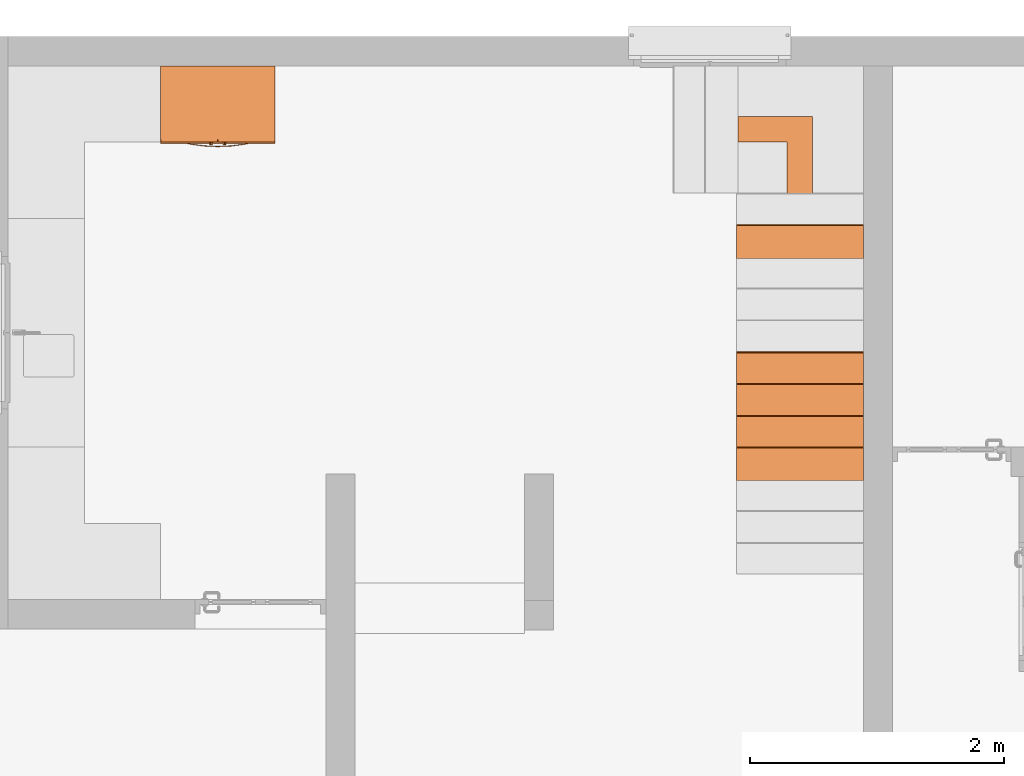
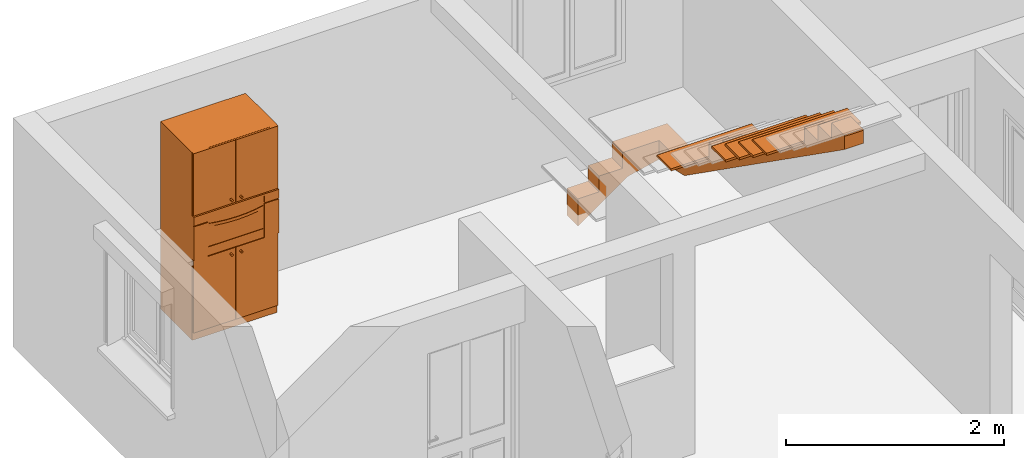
# One storey, part 16 of 17: 7 proxies, 1 element without a shape of its own.
"""IFC2X3 building model written with IfcOpenShell, lengths in metres."""

from ifc_helpers import new_model, entity, si_unit, converted_unit, derived_unit, money_unit, direction, frame, origin_with_axes, place, context, subcontext, project, spatial, faceted_brep, material, type_object, element, aggregate, save


model = new_model("IFC2X3")

# Units and contexts
model_context = context("Model", 3, precision=1e-05, world=origin_with_axes(), true_north=direction((0.0, 1.0)))
body_context = subcontext(model_context, "Body", "Model", "MODEL_VIEW")
ifc_project = project(units=[si_unit("LENGTHUNIT", "METRE"), si_unit("AREAUNIT", "SQUARE_METRE"), si_unit("VOLUMEUNIT", "CUBIC_METRE"), converted_unit("PLANEANGLEUNIT", "DEGREE", entity("IfcPlaneAngleMeasure", 0.0174532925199), si_unit("PLANEANGLEUNIT", "RADIAN"), dimensions=[0, 0, 0, 0, 0, 0, 0]), si_unit("SOLIDANGLEUNIT", "STERADIAN"), money_unit("CHF"), converted_unit("TIMEUNIT", "Year", entity("IfcTimeMeasure", 31556926.0), si_unit("TIMEUNIT", "SECOND"), dimensions=[0, 0, 1, 0, 0, 0, 0]), si_unit("MASSUNIT", "GRAM", prefix="KILO"), si_unit("THERMODYNAMICTEMPERATUREUNIT", "DEGREE_CELSIUS"), si_unit("LUMINOUSINTENSITYUNIT", "LUMEN"), si_unit("ENERGYUNIT", "JOULE", prefix="MEGA"), derived_unit("THERMALCONDUCTANCEUNIT", [(si_unit("POWERUNIT", "WATT"), 1), (si_unit("LENGTHUNIT", "METRE"), -1), (si_unit("THERMODYNAMICTEMPERATUREUNIT", "KELVIN"), -1)]), derived_unit("SPECIFICHEATCAPACITYUNIT", [(si_unit("ENERGYUNIT", "JOULE"), 1), (si_unit("MASSUNIT", "GRAM", prefix="KILO"), -1), (si_unit("THERMODYNAMICTEMPERATUREUNIT", "KELVIN"), -1)]), derived_unit("MASSDENSITYUNIT", [(si_unit("MASSUNIT", "GRAM", prefix="KILO"), 1), (si_unit("VOLUMEUNIT", "CUBIC_METRE"), -1)])], contexts=[model_context])

# Site, building, storey
site_placement = place(None, origin_with_axes())
site = spatial("IfcSite", under=ifc_project, at=site_placement, Name="Site", CompositionType="ELEMENT")
building_placement = place(site_placement, origin_with_axes())
building = spatial("IfcBuilding", under=site, at=building_placement, Name="Bâtiment", CompositionType="ELEMENT")
storey_placement = place(building_placement, frame((0.0, 0.0, 3.0), z_axis=(0.0, 0.0, 1.0), x_axis=(1.0, 0.0, 0.0)))
storey = spatial("IfcBuildingStorey", under=building, at=storey_placement, Name="RDJ", CompositionType="ELEMENT", Elevation=3.0)

# Discrete accessory, proxies
discrete_accessory_type = type_object("IfcDiscreteAccessoryType", Name="Type d'escalier")
discrete_accessory_placement = place(storey_placement, frame((90.2435190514, 18.0803410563, -2.79432731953), z_axis=(0.0, 0.0, 1.0), x_axis=(1.0, 0.0, 0.0)))
discrete_accessory = element("IfcDiscreteAccessory", 1, at=discrete_accessory_placement, inside=storey, type_object=discrete_accessory_type, Name="ESCALIER-001")
ifc_material_1 = material(Name="Bois - Massif 01")
building_element_proxy_type_1 = type_object("IfcBuildingElementProxyType", Name="IfcBuildingElementProxy", PredefinedType="NOTDEFINED")
proxy_1_placement = place(discrete_accessory_placement, origin_with_axes())
proxy_1 = element("IfcBuildingElementProxy", 2, at=proxy_1_placement, type_object=building_element_proxy_type_1, material=ifc_material_1, Name="VOLEE-001", context=body_context, shape_type="Brep", body=[
    faceted_brep([(1.1, -3.265, 2.26857142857), (1.1, -3.265, 2.445), (1.1, -3.4925295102, 2.445), (1.1, -3.5, 2.43441428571), (1.1, -3.5, 2.28754131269), (1.1, -0.564672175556, 0.216038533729), (1.1, -0.12491681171, 0.116996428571), (1.1, 0.1, 0.116996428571), (1.1, 0.1, 0.327857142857), (1.1, -0.515, 0.327857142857), (1.1, -0.515, 0.504285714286), (1.1, -0.765, 0.504285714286), (1.1, -0.765, 0.680714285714), (1.1, -1.015, 0.680714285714), (1.1, -1.015, 0.857142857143), (1.1, -1.265, 0.857142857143), (1.1, -1.265, 1.03357142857), (1.1, -1.515, 1.03357142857), (1.1, -1.515, 1.21), (1.1, -1.765, 1.21), (1.1, -1.765, 1.38642857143), (1.1, -2.015, 1.38642857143), (1.1, -2.015, 1.56285714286), (1.1, -2.265, 1.56285714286), (1.1, -2.265, 1.73928571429), (1.1, -2.515, 1.73928571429), (1.1, -2.515, 1.91571428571), (1.1, -2.765, 1.91571428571), (1.1, -2.765, 2.09214285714), (1.1, -3.015, 2.09214285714), (1.1, -3.015, 2.26857142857), (0.9, -3.265, 2.26857142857), (0.9, -3.265, 2.445), (0.9, -3.4925295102, 2.445), (0.9, -3.5, 2.43441428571), (0.9, -3.5, 2.28754131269), (0.9, -0.564672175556, 0.216038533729), (0.9, -0.12491681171, 0.116996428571), (0.9, -0.1, 0.116996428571), (0.902001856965, -0.1, 0.116996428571), (0.902001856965, 0.1, 0.116996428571), (0.564862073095, 0.1, 0.0397439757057), (0.04, 0.1, -0.330658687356), (0.04, 0.1, -0.025), (0.265, 0.1, -0.025), (0.265, 0.1, 0.151428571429), (0.515, 0.1, 0.151428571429), (0.515, 0.1, 0.327857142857), (0.9, -0.515, 0.327857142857), (0.515, -0.1, 0.327857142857), (0.9, -0.1, 0.327857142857), (0.9, -0.515, 0.504285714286), (0.9, -0.765, 0.504285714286), (0.9, -0.765, 0.680714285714), (0.9, -1.015, 0.680714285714), (0.9, -1.015, 0.857142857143), (0.9, -1.265, 0.857142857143), (0.9, -1.265, 1.03357142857), (0.9, -1.515, 1.03357142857), (0.9, -1.515, 1.21), (0.9, -1.765, 1.21), (0.9, -1.765, 1.38642857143), (0.9, -2.015, 1.38642857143), (0.9, -2.015, 1.56285714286), (0.9, -2.265, 1.56285714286), (0.9, -2.265, 1.73928571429), (0.9, -2.515, 1.73928571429), (0.9, -2.515, 1.91571428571), (0.9, -2.765, 1.91571428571), (0.9, -2.765, 2.09214285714), (0.9, -3.015, 2.09214285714), (0.9, -3.015, 2.26857142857), (0.265, -0.1, 0.151428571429), (0.265, -0.1, -0.025), (0.04, -0.1, -0.025), (0.04, -0.1, -0.330658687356), (0.564862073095, -0.1, 0.0397439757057), (0.515, -0.1, 0.151428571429)], [[[0, 1, 2, 3, 4, 5, 6, 7, 8, 9, 10, 11, 12, 13, 14, 15, 16, 17, 18, 19, 20, 21, 22, 23, 24, 25, 26, 27, 28, 29, 30]], [[31, 32, 1, 0]], [[32, 33, 2, 1]], [[3, 2, 33, 34]], [[34, 35, 4, 3]], [[36, 5, 4, 35]], [[37, 6, 5, 36]], [[7, 6, 37, 38, 39, 40]], [[40, 41, 42, 43, 44, 45, 46, 47, 8, 7]], [[48, 9, 8, 47, 49, 50]], [[9, 48, 51, 10]], [[51, 52, 11, 10]], [[12, 11, 52, 53]], [[12, 53, 54, 13]], [[55, 14, 13, 54]], [[15, 14, 55, 56]], [[56, 57, 16, 15]], [[58, 17, 16, 57]], [[17, 58, 59, 18]], [[59, 60, 19, 18]], [[20, 19, 60, 61]], [[20, 61, 62, 21]], [[63, 22, 21, 62]], [[23, 22, 63, 64]], [[64, 65, 24, 23]], [[66, 25, 24, 65]], [[25, 66, 67, 26]], [[67, 68, 27, 26]], [[28, 27, 68, 69]], [[28, 69, 70, 29]], [[71, 30, 29, 70]], [[0, 30, 71, 31]], [[34, 33, 32, 31, 71, 70, 69, 68, 67, 66, 65, 64, 63, 62, 61, 60, 59, 58, 57, 56, 55, 54, 53, 52, 51, 48, 50, 38, 37, 36, 35]], [[72, 73, 74, 75, 76, 39, 38, 50, 49, 77]], [[76, 41, 40, 39]], [[76, 75, 42, 41]], [[43, 42, 75, 74]], [[73, 44, 43, 74]], [[72, 45, 44, 73]], [[72, 77, 46, 45]], [[77, 49, 47, 46]]]),
])
ifc_material_2 = material(Name="Finition sol - Parquet")
proxy_2_placement = place(discrete_accessory_placement, frame((1.0, -0.75, 0.705714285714), z_axis=(0.0, 0.0, 1.0), x_axis=(-1.0, 0.0, 0.0)))
proxy_2 = element("IfcBuildingElementProxy", 3, at=proxy_2_placement, type_object=building_element_proxy_type_1, material=ifc_material_2, Name="MARCHE-005", context=body_context, shape_type="Brep", body=[
    faceted_brep([(-0.5, 0.265, 0.0), (0.5, 0.265, 0.0), (0.5, 0.265, -0.025), (-0.5, 0.265, -0.025), (-0.5, 0.0125, 0.0), (0.5, 0.0125, 0.0), (0.5, 0.000189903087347, -0.0103293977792), (0.5, 0.0, -0.0125), (0.5, 0.0, -0.025), (0.5, 0.0103293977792, -0.000189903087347), (0.5, 0.00822474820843, -0.000753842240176), (0.5, 0.00625, -0.00167468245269), (0.5, 0.00446515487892, -0.00292444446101), (0.5, 0.00292444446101, -0.00446515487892), (0.5, 0.00167468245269, -0.00625), (0.5, 0.000753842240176, -0.00822474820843), (-0.5, 0.0, -0.025), (-0.5, 0.0, -0.0125), (-0.5, 0.000189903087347, -0.0103293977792), (-0.5, 0.000753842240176, -0.00822474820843), (-0.5, 0.00167468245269, -0.00625), (-0.5, 0.00292444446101, -0.00446515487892), (-0.5, 0.00446515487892, -0.00292444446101), (-0.5, 0.00625, -0.00167468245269), (-0.5, 0.00822474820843, -0.000753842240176), (-0.5, 0.0103293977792, -0.000189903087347)], [[[0, 1, 2, 3]], [[1, 0, 4, 5]], [[6, 7, 8, 2, 1, 5, 9, 10, 11, 12, 13, 14, 15]], [[8, 16, 3, 2]], [[4, 0, 3, 16, 17, 18, 19, 20, 21, 22, 23, 24, 25]], [[9, 5, 4, 25]], [[7, 6, 18, 17]], [[7, 17, 16, 8]], [[10, 9, 25, 24]], [[11, 10, 24, 23]], [[12, 11, 23, 22]], [[13, 12, 22, 21]], [[14, 13, 21, 20]], [[15, 14, 20, 19]], [[6, 15, 19, 18]]]),
])
proxy_3_placement = place(discrete_accessory_placement, frame((1.0, -1.75, 1.41142857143), z_axis=(0.0, 0.0, 1.0), x_axis=(-1.0, 0.0, 0.0)))
proxy_3 = element("IfcBuildingElementProxy", 4, at=proxy_3_placement, type_object=building_element_proxy_type_1, material=ifc_material_2, Name="MARCHE-009", context=body_context, shape_type="Brep", body=[
    faceted_brep([(-0.5, 0.265, 0.0), (0.5, 0.265, 0.0), (0.5, 0.265, -0.025), (-0.5, 0.265, -0.025), (-0.5, 0.0125, 0.0), (0.5, 0.0125, 0.0), (0.5, 0.000189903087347, -0.0103293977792), (0.5, 0.0, -0.0125), (0.5, 0.0, -0.025), (0.5, 0.0103293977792, -0.000189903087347), (0.5, 0.00822474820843, -0.000753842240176), (0.5, 0.00625, -0.00167468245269), (0.5, 0.00446515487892, -0.00292444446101), (0.5, 0.00292444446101, -0.00446515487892), (0.5, 0.00167468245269, -0.00625), (0.5, 0.000753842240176, -0.00822474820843), (-0.5, 0.0, -0.025), (-0.5, 0.0, -0.0125), (-0.5, 0.000189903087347, -0.0103293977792), (-0.5, 0.000753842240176, -0.00822474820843), (-0.5, 0.00167468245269, -0.00625), (-0.5, 0.00292444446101, -0.00446515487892), (-0.5, 0.00446515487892, -0.00292444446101), (-0.5, 0.00625, -0.00167468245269), (-0.5, 0.00822474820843, -0.000753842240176), (-0.5, 0.0103293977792, -0.000189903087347)], [[[0, 1, 2, 3]], [[1, 0, 4, 5]], [[6, 7, 8, 2, 1, 5, 9, 10, 11, 12, 13, 14, 15]], [[8, 16, 3, 2]], [[4, 0, 3, 16, 17, 18, 19, 20, 21, 22, 23, 24, 25]], [[9, 5, 4, 25]], [[7, 6, 18, 17]], [[7, 17, 16, 8]], [[10, 9, 25, 24]], [[11, 10, 24, 23]], [[12, 11, 23, 22]], [[13, 12, 22, 21]], [[14, 13, 21, 20]], [[15, 14, 20, 19]], [[6, 15, 19, 18]]]),
])
proxy_4_placement = place(discrete_accessory_placement, frame((1.0, -2.0, 1.58785714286), z_axis=(0.0, 0.0, 1.0), x_axis=(-1.0, 0.0, 0.0)))
proxy_4 = element("IfcBuildingElementProxy", 5, at=proxy_4_placement, type_object=building_element_proxy_type_1, material=ifc_material_2, Name="MARCHE-010", context=body_context, shape_type="Brep", body=[
    faceted_brep([(-0.5, 0.265, 0.0), (0.5, 0.265, 0.0), (0.5, 0.265, -0.025), (-0.5, 0.265, -0.025), (-0.5, 0.0125, 0.0), (0.5, 0.0125, 0.0), (0.5, 0.000189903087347, -0.0103293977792), (0.5, 0.0, -0.0125), (0.5, 0.0, -0.025), (0.5, 0.0103293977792, -0.000189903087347), (0.5, 0.00822474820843, -0.000753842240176), (0.5, 0.00625, -0.00167468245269), (0.5, 0.00446515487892, -0.00292444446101), (0.5, 0.00292444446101, -0.00446515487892), (0.5, 0.00167468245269, -0.00625), (0.5, 0.000753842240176, -0.00822474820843), (-0.5, 0.0, -0.025), (-0.5, 0.0, -0.0125), (-0.5, 0.000189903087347, -0.0103293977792), (-0.5, 0.000753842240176, -0.00822474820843), (-0.5, 0.00167468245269, -0.00625), (-0.5, 0.00292444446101, -0.00446515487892), (-0.5, 0.00446515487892, -0.00292444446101), (-0.5, 0.00625, -0.00167468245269), (-0.5, 0.00822474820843, -0.000753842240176), (-0.5, 0.0103293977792, -0.000189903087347)], [[[0, 1, 2, 3]], [[1, 0, 4, 5]], [[6, 7, 8, 2, 1, 5, 9, 10, 11, 12, 13, 14, 15]], [[8, 16, 3, 2]], [[4, 0, 3, 16, 17, 18, 19, 20, 21, 22, 23, 24, 25]], [[9, 5, 4, 25]], [[7, 6, 18, 17]], [[7, 17, 16, 8]], [[10, 9, 25, 24]], [[11, 10, 24, 23]], [[12, 11, 23, 22]], [[13, 12, 22, 21]], [[14, 13, 21, 20]], [[15, 14, 20, 19]], [[6, 15, 19, 18]]]),
])
proxy_5_placement = place(discrete_accessory_placement, frame((1.0, -2.25, 1.76428571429), z_axis=(0.0, 0.0, 1.0), x_axis=(-1.0, 0.0, 0.0)))
proxy_5 = element("IfcBuildingElementProxy", 6, at=proxy_5_placement, type_object=building_element_proxy_type_1, material=ifc_material_2, Name="MARCHE-011", context=body_context, shape_type="Brep", body=[
    faceted_brep([(-0.5, 0.265, 0.0), (0.5, 0.265, 0.0), (0.5, 0.265, -0.025), (-0.5, 0.265, -0.025), (-0.5, 0.0125, 0.0), (0.5, 0.0125, 0.0), (0.5, 0.000189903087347, -0.0103293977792), (0.5, 0.0, -0.0125), (0.5, 0.0, -0.025), (0.5, 0.0103293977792, -0.000189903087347), (0.5, 0.00822474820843, -0.000753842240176), (0.5, 0.00625, -0.00167468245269), (0.5, 0.00446515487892, -0.00292444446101), (0.5, 0.00292444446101, -0.00446515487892), (0.5, 0.00167468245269, -0.00625), (0.5, 0.000753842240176, -0.00822474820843), (-0.5, 0.0, -0.025), (-0.5, 0.0, -0.0125), (-0.5, 0.000189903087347, -0.0103293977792), (-0.5, 0.000753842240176, -0.00822474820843), (-0.5, 0.00167468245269, -0.00625), (-0.5, 0.00292444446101, -0.00446515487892), (-0.5, 0.00446515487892, -0.00292444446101), (-0.5, 0.00625, -0.00167468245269), (-0.5, 0.00822474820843, -0.000753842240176), (-0.5, 0.0103293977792, -0.000189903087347)], [[[0, 1, 2, 3]], [[1, 0, 4, 5]], [[6, 7, 8, 2, 1, 5, 9, 10, 11, 12, 13, 14, 15]], [[8, 16, 3, 2]], [[4, 0, 3, 16, 17, 18, 19, 20, 21, 22, 23, 24, 25]], [[9, 5, 4, 25]], [[7, 6, 18, 17]], [[7, 17, 16, 8]], [[10, 9, 25, 24]], [[11, 10, 24, 23]], [[12, 11, 23, 22]], [[13, 12, 22, 21]], [[14, 13, 21, 20]], [[15, 14, 20, 19]], [[6, 15, 19, 18]]]),
])
proxy_6_placement = place(discrete_accessory_placement, frame((1.0, -2.5, 1.94071428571), z_axis=(0.0, 0.0, 1.0), x_axis=(-1.0, 0.0, 0.0)))
proxy_6 = element("IfcBuildingElementProxy", 7, at=proxy_6_placement, type_object=building_element_proxy_type_1, material=ifc_material_2, Name="MARCHE-012", context=body_context, shape_type="Brep", body=[
    faceted_brep([(-0.5, 0.265, 0.0), (0.5, 0.265, 0.0), (0.5, 0.265, -0.025), (-0.5, 0.265, -0.025), (-0.5, 0.0125, 0.0), (0.5, 0.0125, 0.0), (0.5, 0.000189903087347, -0.0103293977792), (0.5, 0.0, -0.0125), (0.5, 0.0, -0.025), (0.5, 0.0103293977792, -0.000189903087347), (0.5, 0.00822474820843, -0.000753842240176), (0.5, 0.00625, -0.00167468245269), (0.5, 0.00446515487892, -0.00292444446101), (0.5, 0.00292444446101, -0.00446515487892), (0.5, 0.00167468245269, -0.00625), (0.5, 0.000753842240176, -0.00822474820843), (-0.5, 0.0, -0.025), (-0.5, 0.0, -0.0125), (-0.5, 0.000189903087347, -0.0103293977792), (-0.5, 0.000753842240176, -0.00822474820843), (-0.5, 0.00167468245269, -0.00625), (-0.5, 0.00292444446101, -0.00446515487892), (-0.5, 0.00446515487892, -0.00292444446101), (-0.5, 0.00625, -0.00167468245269), (-0.5, 0.00822474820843, -0.000753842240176), (-0.5, 0.0103293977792, -0.000189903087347)], [[[0, 1, 2, 3]], [[1, 0, 4, 5]], [[6, 7, 8, 2, 1, 5, 9, 10, 11, 12, 13, 14, 15]], [[8, 16, 3, 2]], [[4, 0, 3, 16, 17, 18, 19, 20, 21, 22, 23, 24, 25]], [[9, 5, 4, 25]], [[7, 6, 18, 17]], [[7, 17, 16, 8]], [[10, 9, 25, 24]], [[11, 10, 24, 23]], [[12, 11, 23, 22]], [[13, 12, 22, 21]], [[14, 13, 21, 20]], [[15, 14, 20, 19]], [[6, 15, 19, 18]]]),
])
aggregate(discrete_accessory, [proxy_1, proxy_2, proxy_3, proxy_4, proxy_5, proxy_6])

# Proxy
building_element_proxy_type_2 = type_object("IfcBuildingElementProxyType", Name="Elément haut double avec four 24", PredefinedType="NOTDEFINED")
proxy_7_placement = place(storey_placement, frame((86.2135190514, 17.9803410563, -2.99), z_axis=(0.0, 0.0, 1.0), x_axis=(1.0, 0.0, 0.0)))
element("IfcBuildingElementProxy", 8, at=proxy_7_placement, inside=storey, type_object=building_element_proxy_type_2, Name="MOB-1204", context=body_context, shape_type="Brep", body=[
    faceted_brep([(0.02, 0.02, 1.39), (0.88, 0.02, 1.39), (0.88, 0.02, 1.41), (0.02, 0.02, 1.41), (0.02, 0.58, 1.39), (0.88, 0.58, 1.39), (0.88, 0.58, 1.41), (0.02, 0.58, 1.41)], [[[0, 1, 2, 3]], [[0, 4, 5, 1]], [[1, 5, 6, 2]], [[3, 2, 6, 7]], [[4, 0, 3, 7]], [[5, 4, 7, 6]]]),
    faceted_brep([(0.02, 0.02, 0.89), (0.88, 0.02, 0.89), (0.88, 0.02, 0.91), (0.02, 0.02, 0.91), (0.02, 0.58, 0.89), (0.88, 0.58, 0.89), (0.88, 0.58, 0.91), (0.02, 0.58, 0.91)], [[[0, 1, 2, 3]], [[0, 4, 5, 1]], [[1, 5, 6, 2]], [[3, 2, 6, 7]], [[4, 0, 3, 7]], [[5, 4, 7, 6]]]),
    faceted_brep([(0.0, 0.02, 0.0), (0.9, 0.02, 0.0), (0.9, 0.02, 0.09), (0.0, 0.02, 0.09), (0.0, 0.6, 0.0), (0.9, 0.6, 0.0), (0.9, 0.6, 0.09), (0.0, 0.6, 0.09)], [[[0, 1, 2, 3]], [[0, 4, 5, 1]], [[1, 5, 6, 2]], [[3, 2, 6, 7]], [[4, 0, 3, 7]], [[5, 4, 7, 6]]]),
    faceted_brep([(0.0, 0.02, 2.08), (0.02, 0.02, 2.08), (0.02, 0.02, 2.1), (0.0, 0.02, 2.1), (0.0, 0.6, 2.08), (0.02, 0.6, 2.08), (0.88, 0.6, 2.08), (0.9, 0.6, 2.08), (0.9, 0.02, 2.08), (0.88, 0.02, 2.08), (0.88, 0.02, 2.1), (0.9, 0.02, 2.1), (0.9, 0.6, 2.1), (0.88, 0.6, 2.1), (0.02, 0.6, 2.1), (0.0, 0.6, 2.1)], [[[0, 1, 2, 3]], [[0, 4, 5, 6, 7, 8, 9, 1]], [[1, 9, 10, 2]], [[3, 2, 10, 11, 12, 13, 14, 15]], [[4, 0, 3, 15]], [[5, 4, 15, 14]], [[6, 5, 14, 13]], [[7, 6, 13, 12]], [[8, 7, 12, 11]], [[9, 8, 11, 10]]]),
    faceted_brep([(0.0, 0.02, 0.09), (0.02, 0.02, 0.09), (0.02, 0.02, 0.11), (0.0, 0.02, 0.11), (0.0, 0.6, 0.09), (0.02, 0.6, 0.09), (0.88, 0.6, 0.09), (0.9, 0.6, 0.09), (0.9, 0.02, 0.09), (0.88, 0.02, 0.09), (0.88, 0.02, 0.11), (0.9, 0.02, 0.11), (0.9, 0.6, 0.11), (0.88, 0.6, 0.11), (0.02, 0.6, 0.11), (0.0, 0.6, 0.11)], [[[0, 1, 2, 3]], [[0, 4, 5, 6, 7, 8, 9, 1]], [[1, 9, 10, 2]], [[3, 2, 10, 11, 12, 13, 14, 15]], [[4, 0, 3, 15]], [[5, 4, 15, 14]], [[6, 5, 14, 13]], [[7, 6, 13, 12]], [[8, 7, 12, 11]], [[9, 8, 11, 10]]]),
    faceted_brep([(0.0, 0.02, 0.11), (0.02, 0.02, 0.11), (0.02, 0.02, 2.08), (0.0, 0.02, 2.08), (0.0, 0.6, 0.11), (0.9, 0.6, 0.11), (0.9, 0.02, 0.11), (0.88, 0.02, 0.11), (0.88, 0.58, 0.11), (0.02, 0.58, 0.11), (0.02, 0.58, 2.08), (0.88, 0.58, 2.08), (0.88, 0.02, 2.08), (0.9, 0.02, 2.08), (0.9, 0.6, 2.08), (0.0, 0.6, 2.08)], [[[0, 1, 2, 3]], [[0, 4, 5, 6, 7, 8, 9, 1]], [[1, 9, 10, 2]], [[3, 2, 10, 11, 12, 13, 14, 15]], [[4, 0, 3, 15]], [[5, 4, 15, 14]], [[6, 5, 14, 13]], [[7, 6, 13, 12]], [[8, 7, 12, 11]], [[9, 8, 11, 10]]]),
    faceted_brep([(0.88, 0.02, 0.346666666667), (0.88, 0.58, 0.346666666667), (0.88, 0.58, 0.366666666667), (0.88, 0.02, 0.366666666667), (0.02, 0.02, 0.346666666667), (0.02, 0.58, 0.346666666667), (0.02, 0.58, 0.366666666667), (0.02, 0.02, 0.366666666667)], [[[0, 1, 2, 3]], [[0, 4, 5, 1]], [[1, 5, 6, 2]], [[3, 2, 6, 7]], [[4, 0, 3, 7]], [[5, 4, 7, 6]]]),
    faceted_brep([(0.88, 0.02, 0.623333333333), (0.88, 0.58, 0.623333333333), (0.88, 0.58, 0.643333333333), (0.88, 0.02, 0.643333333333), (0.02, 0.02, 0.623333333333), (0.02, 0.58, 0.623333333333), (0.02, 0.58, 0.643333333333), (0.02, 0.02, 0.643333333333)], [[[0, 1, 2, 3]], [[0, 4, 5, 1]], [[1, 5, 6, 2]], [[3, 2, 6, 7]], [[4, 0, 3, 7]], [[5, 4, 7, 6]]]),
    faceted_brep([(0.0015, 0.02, 0.0915), (0.4485, 0.02, 0.0915), (0.4485, 0.0, 0.0915), (0.0015, 0.0, 0.0915), (0.0015, 0.02, 0.8985), (0.4485, 0.02, 0.8985), (0.4485, 0.0, 0.8985), (0.0015, 0.0, 0.8985)], [[[0, 1, 2, 3]], [[0, 4, 5, 1]], [[1, 5, 6, 2]], [[3, 2, 6, 7]], [[4, 0, 3, 7]], [[5, 4, 7, 6]]]),
    faceted_brep([(0.410091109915, 0.0, 0.838394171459), (0.408892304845, 0.0, 0.8355), (0.406985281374, 0.0, 0.833014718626), (0.4045, 0.0, 0.831107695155), (0.401605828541, 0.0, 0.829908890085), (0.3985, 0.0, 0.8295), (0.395394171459, 0.0, 0.829908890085), (0.3925, 0.0, 0.831107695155), (0.390014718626, 0.0, 0.833014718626), (0.388107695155, 0.0, 0.8355), (0.386908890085, 0.0, 0.838394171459), (0.3865, 0.0, 0.8415), (0.386908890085, 0.0, 0.844605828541), (0.388107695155, 0.0, 0.8475), (0.390014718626, 0.0, 0.849985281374), (0.3925, 0.0, 0.851892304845), (0.395394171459, 0.0, 0.853091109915), (0.3985, 0.0, 0.8535), (0.401605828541, 0.0, 0.853091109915), (0.4045, 0.0, 0.851892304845), (0.406985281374, 0.0, 0.849985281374), (0.408892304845, 0.0, 0.8475), (0.410091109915, 0.0, 0.844605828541), (0.4105, 0.0, 0.8415), (0.410091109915, -0.025, 0.838394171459), (0.408892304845, -0.025, 0.8355), (0.406985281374, -0.025, 0.833014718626), (0.4045, -0.025, 0.831107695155), (0.401605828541, -0.025, 0.829908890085), (0.3985, -0.025, 0.8295), (0.395394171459, -0.025, 0.829908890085), (0.3925, -0.025, 0.831107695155), (0.390014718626, -0.025, 0.833014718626), (0.388107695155, -0.025, 0.8355), (0.386908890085, -0.025, 0.838394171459), (0.3865, -0.025, 0.8415), (0.386908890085, -0.025, 0.844605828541), (0.388107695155, -0.025, 0.8475), (0.390014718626, -0.025, 0.849985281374), (0.3925, -0.025, 0.851892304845), (0.395394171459, -0.025, 0.853091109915), (0.3985, -0.025, 0.8535), (0.401605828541, -0.025, 0.853091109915), (0.4045, -0.025, 0.851892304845), (0.406985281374, -0.025, 0.849985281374), (0.408892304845, -0.025, 0.8475), (0.410091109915, -0.025, 0.844605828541), (0.4105, -0.025, 0.8415)], [[[0, 1, 2, 3, 4, 5, 6, 7, 8, 9, 10, 11, 12, 13, 14, 15, 16, 17, 18, 19, 20, 21, 22, 23]], [[1, 0, 24, 25]], [[2, 1, 25, 26]], [[3, 2, 26, 27]], [[4, 3, 27, 28]], [[5, 4, 28, 29]], [[6, 5, 29, 30]], [[7, 6, 30, 31]], [[8, 7, 31, 32]], [[9, 8, 32, 33]], [[10, 9, 33, 34]], [[11, 10, 34, 35]], [[12, 11, 35, 36]], [[13, 12, 36, 37]], [[14, 13, 37, 38]], [[15, 14, 38, 39]], [[16, 15, 39, 40]], [[17, 16, 40, 41]], [[18, 17, 41, 42]], [[19, 18, 42, 43]], [[20, 19, 43, 44]], [[21, 20, 44, 45]], [[22, 21, 45, 46]], [[23, 22, 46, 47]], [[0, 23, 47, 24]], [[24, 47, 46, 45, 44, 43, 42, 41, 40, 39, 38, 37, 36, 35, 34, 33, 32, 31, 30, 29, 28, 27, 26, 25]]]),
    faceted_brep([(0.0015, 0.02, 1.4015), (0.4485, 0.02, 1.4015), (0.4485, 0.0, 1.4015), (0.0015, 0.0, 1.4015), (0.0015, 0.02, 2.0985), (0.4485, 0.02, 2.0985), (0.4485, 0.0, 2.0985), (0.0015, 0.0, 2.0985)], [[[0, 1, 2, 3]], [[0, 4, 5, 1]], [[1, 5, 6, 2]], [[3, 2, 6, 7]], [[4, 0, 3, 7]], [[5, 4, 7, 6]]]),
    faceted_brep([(0.410091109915, 0.0, 1.44839417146), (0.408892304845, 0.0, 1.4455), (0.406985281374, 0.0, 1.44301471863), (0.4045, 0.0, 1.44110769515), (0.401605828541, 0.0, 1.43990889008), (0.3985, 0.0, 1.4395), (0.395394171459, 0.0, 1.43990889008), (0.3925, 0.0, 1.44110769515), (0.390014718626, 0.0, 1.44301471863), (0.388107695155, 0.0, 1.4455), (0.386908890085, 0.0, 1.44839417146), (0.3865, 0.0, 1.4515), (0.386908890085, 0.0, 1.45460582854), (0.388107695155, 0.0, 1.4575), (0.390014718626, 0.0, 1.45998528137), (0.3925, 0.0, 1.46189230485), (0.395394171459, 0.0, 1.46309110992), (0.3985, 0.0, 1.4635), (0.401605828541, 0.0, 1.46309110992), (0.4045, 0.0, 1.46189230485), (0.406985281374, 0.0, 1.45998528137), (0.408892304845, 0.0, 1.4575), (0.410091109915, 0.0, 1.45460582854), (0.4105, 0.0, 1.4515), (0.410091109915, -0.025, 1.44839417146), (0.408892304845, -0.025, 1.4455), (0.406985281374, -0.025, 1.44301471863), (0.4045, -0.025, 1.44110769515), (0.401605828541, -0.025, 1.43990889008), (0.3985, -0.025, 1.4395), (0.395394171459, -0.025, 1.43990889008), (0.3925, -0.025, 1.44110769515), (0.390014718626, -0.025, 1.44301471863), (0.388107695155, -0.025, 1.4455), (0.386908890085, -0.025, 1.44839417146), (0.3865, -0.025, 1.4515), (0.386908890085, -0.025, 1.45460582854), (0.388107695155, -0.025, 1.4575), (0.390014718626, -0.025, 1.45998528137), (0.3925, -0.025, 1.46189230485), (0.395394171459, -0.025, 1.46309110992), (0.3985, -0.025, 1.4635), (0.401605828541, -0.025, 1.46309110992), (0.4045, -0.025, 1.46189230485), (0.406985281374, -0.025, 1.45998528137), (0.408892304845, -0.025, 1.4575), (0.410091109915, -0.025, 1.45460582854), (0.4105, -0.025, 1.4515)], [[[0, 1, 2, 3, 4, 5, 6, 7, 8, 9, 10, 11, 12, 13, 14, 15, 16, 17, 18, 19, 20, 21, 22, 23]], [[1, 0, 24, 25]], [[2, 1, 25, 26]], [[3, 2, 26, 27]], [[4, 3, 27, 28]], [[5, 4, 28, 29]], [[6, 5, 29, 30]], [[7, 6, 30, 31]], [[8, 7, 31, 32]], [[9, 8, 32, 33]], [[10, 9, 33, 34]], [[11, 10, 34, 35]], [[12, 11, 35, 36]], [[13, 12, 36, 37]], [[14, 13, 37, 38]], [[15, 14, 38, 39]], [[16, 15, 39, 40]], [[17, 16, 40, 41]], [[18, 17, 41, 42]], [[19, 18, 42, 43]], [[20, 19, 43, 44]], [[21, 20, 44, 45]], [[22, 21, 45, 46]], [[23, 22, 46, 47]], [[0, 23, 47, 24]], [[24, 47, 46, 45, 44, 43, 42, 41, 40, 39, 38, 37, 36, 35, 34, 33, 32, 31, 30, 29, 28, 27, 26, 25]]]),
    faceted_brep([(0.8985, 0.02, 0.0915), (0.8985, 0.0, 0.0915), (0.4515, 0.0, 0.0915), (0.4515, 0.02, 0.0915), (0.8985, 0.02, 0.8985), (0.8985, 0.0, 0.8985), (0.4515, 0.0, 0.8985), (0.4515, 0.02, 0.8985)], [[[0, 1, 2, 3]], [[4, 5, 1, 0]], [[1, 5, 6, 2]], [[3, 2, 6, 7]], [[0, 3, 7, 4]], [[7, 6, 5, 4]]]),
    faceted_brep([(0.489908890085, 0.0, 0.838394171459), (0.4895, 0.0, 0.8415), (0.489908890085, 0.0, 0.844605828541), (0.491107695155, 0.0, 0.8475), (0.493014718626, 0.0, 0.849985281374), (0.4955, 0.0, 0.851892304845), (0.498394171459, 0.0, 0.853091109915), (0.5015, 0.0, 0.8535), (0.504605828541, 0.0, 0.853091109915), (0.5075, 0.0, 0.851892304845), (0.509985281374, 0.0, 0.849985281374), (0.511892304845, 0.0, 0.8475), (0.513091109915, 0.0, 0.844605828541), (0.5135, 0.0, 0.8415), (0.513091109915, 0.0, 0.838394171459), (0.511892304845, 0.0, 0.8355), (0.509985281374, 0.0, 0.833014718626), (0.5075, 0.0, 0.831107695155), (0.504605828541, 0.0, 0.829908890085), (0.5015, 0.0, 0.8295), (0.498394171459, 0.0, 0.829908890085), (0.4955, 0.0, 0.831107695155), (0.493014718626, 0.0, 0.833014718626), (0.491107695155, 0.0, 0.8355), (0.489908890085, -0.025, 0.838394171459), (0.4895, -0.025, 0.8415), (0.489908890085, -0.025, 0.844605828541), (0.491107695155, -0.025, 0.8475), (0.493014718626, -0.025, 0.849985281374), (0.4955, -0.025, 0.851892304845), (0.498394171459, -0.025, 0.853091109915), (0.5015, -0.025, 0.8535), (0.504605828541, -0.025, 0.853091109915), (0.5075, -0.025, 0.851892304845), (0.509985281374, -0.025, 0.849985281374), (0.511892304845, -0.025, 0.8475), (0.513091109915, -0.025, 0.844605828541), (0.5135, -0.025, 0.8415), (0.513091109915, -0.025, 0.838394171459), (0.511892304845, -0.025, 0.8355), (0.509985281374, -0.025, 0.833014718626), (0.5075, -0.025, 0.831107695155), (0.504605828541, -0.025, 0.829908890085), (0.5015, -0.025, 0.8295), (0.498394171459, -0.025, 0.829908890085), (0.4955, -0.025, 0.831107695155), (0.493014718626, -0.025, 0.833014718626), (0.491107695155, -0.025, 0.8355)], [[[0, 1, 2, 3, 4, 5, 6, 7, 8, 9, 10, 11, 12, 13, 14, 15, 16, 17, 18, 19, 20, 21, 22, 23]], [[0, 24, 25, 1]], [[1, 25, 26, 2]], [[2, 26, 27, 3]], [[3, 27, 28, 4]], [[4, 28, 29, 5]], [[5, 29, 30, 6]], [[6, 30, 31, 7]], [[7, 31, 32, 8]], [[8, 32, 33, 9]], [[9, 33, 34, 10]], [[10, 34, 35, 11]], [[11, 35, 36, 12]], [[12, 36, 37, 13]], [[13, 37, 38, 14]], [[14, 38, 39, 15]], [[15, 39, 40, 16]], [[16, 40, 41, 17]], [[17, 41, 42, 18]], [[18, 42, 43, 19]], [[19, 43, 44, 20]], [[20, 44, 45, 21]], [[21, 45, 46, 22]], [[22, 46, 47, 23]], [[23, 47, 24, 0]], [[24, 47, 46, 45, 44, 43, 42, 41, 40, 39, 38, 37, 36, 35, 34, 33, 32, 31, 30, 29, 28, 27, 26, 25]]]),
    faceted_brep([(0.8985, 0.02, 1.4015), (0.8985, 0.0, 1.4015), (0.4515, 0.0, 1.4015), (0.4515, 0.02, 1.4015), (0.8985, 0.02, 2.0985), (0.8985, 0.0, 2.0985), (0.4515, 0.0, 2.0985), (0.4515, 0.02, 2.0985)], [[[0, 1, 2, 3]], [[4, 5, 1, 0]], [[1, 5, 6, 2]], [[3, 2, 6, 7]], [[0, 3, 7, 4]], [[7, 6, 5, 4]]]),
    faceted_brep([(0.489908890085, 0.0, 1.44839417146), (0.4895, 0.0, 1.4515), (0.489908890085, 0.0, 1.45460582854), (0.491107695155, 0.0, 1.4575), (0.493014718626, 0.0, 1.45998528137), (0.4955, 0.0, 1.46189230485), (0.498394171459, 0.0, 1.46309110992), (0.5015, 0.0, 1.4635), (0.504605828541, 0.0, 1.46309110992), (0.5075, 0.0, 1.46189230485), (0.509985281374, 0.0, 1.45998528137), (0.511892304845, 0.0, 1.4575), (0.513091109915, 0.0, 1.45460582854), (0.5135, 0.0, 1.4515), (0.513091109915, 0.0, 1.44839417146), (0.511892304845, 0.0, 1.4455), (0.509985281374, 0.0, 1.44301471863), (0.5075, 0.0, 1.44110769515), (0.504605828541, 0.0, 1.43990889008), (0.5015, 0.0, 1.4395), (0.498394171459, 0.0, 1.43990889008), (0.4955, 0.0, 1.44110769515), (0.493014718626, 0.0, 1.44301471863), (0.491107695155, 0.0, 1.4455), (0.489908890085, -0.025, 1.44839417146), (0.4895, -0.025, 1.4515), (0.489908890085, -0.025, 1.45460582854), (0.491107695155, -0.025, 1.4575), (0.493014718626, -0.025, 1.45998528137), (0.4955, -0.025, 1.46189230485), (0.498394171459, -0.025, 1.46309110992), (0.5015, -0.025, 1.4635), (0.504605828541, -0.025, 1.46309110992), (0.5075, -0.025, 1.46189230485), (0.509985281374, -0.025, 1.45998528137), (0.511892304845, -0.025, 1.4575), (0.513091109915, -0.025, 1.45460582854), (0.5135, -0.025, 1.4515), (0.513091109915, -0.025, 1.44839417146), (0.511892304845, -0.025, 1.4455), (0.509985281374, -0.025, 1.44301471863), (0.5075, -0.025, 1.44110769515), (0.504605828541, -0.025, 1.43990889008), (0.5015, -0.025, 1.4395), (0.498394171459, -0.025, 1.43990889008), (0.4955, -0.025, 1.44110769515), (0.493014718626, -0.025, 1.44301471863), (0.491107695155, -0.025, 1.4455)], [[[0, 1, 2, 3, 4, 5, 6, 7, 8, 9, 10, 11, 12, 13, 14, 15, 16, 17, 18, 19, 20, 21, 22, 23]], [[0, 24, 25, 1]], [[1, 25, 26, 2]], [[2, 26, 27, 3]], [[3, 27, 28, 4]], [[4, 28, 29, 5]], [[5, 29, 30, 6]], [[6, 30, 31, 7]], [[7, 31, 32, 8]], [[8, 32, 33, 9]], [[9, 33, 34, 10]], [[10, 34, 35, 11]], [[11, 35, 36, 12]], [[12, 36, 37, 13]], [[13, 37, 38, 14]], [[14, 38, 39, 15]], [[15, 39, 40, 16]], [[16, 40, 41, 17]], [[17, 41, 42, 18]], [[18, 42, 43, 19]], [[19, 43, 44, 20]], [[20, 44, 45, 21]], [[21, 45, 46, 22]], [[22, 46, 47, 23]], [[23, 47, 24, 0]], [[24, 47, 46, 45, 44, 43, 42, 41, 40, 39, 38, 37, 36, 35, 34, 33, 32, 31, 30, 29, 28, 27, 26, 25]]]),
    faceted_brep([(0.0, 0.02, 0.905), (0.9, 0.02, 0.905), (0.9, 0.0, 0.905), (0.0, 0.0, 0.905), (0.0, 0.02, 1.395), (0.9, 0.02, 1.395), (0.16, 0.02, 1.003), (0.74, 0.02, 1.003), (0.74, 0.02, 1.199), (0.16, 0.02, 1.199), (0.9, 0.0, 1.395), (0.0, 0.0, 1.395), (0.16, 0.0, 1.003), (0.16, 0.0, 1.199), (0.74, 0.0, 1.199), (0.74, 0.0, 1.003)], [[[0, 1, 2, 3]], [[0, 4, 5, 1], [6, 7, 8, 9]], [[1, 5, 10, 2]], [[3, 2, 10, 11], [12, 13, 14, 15]], [[4, 0, 3, 11]], [[5, 4, 11, 10]], [[7, 6, 12, 15]], [[8, 7, 15, 14]], [[9, 8, 14, 13]], [[6, 9, 13, 12]]]),
    faceted_brep([(0.16, 0.015, 1.003), (0.74, 0.015, 1.003), (0.74, 0.005, 1.003), (0.16, 0.005, 1.003), (0.16, 0.015, 1.199), (0.74, 0.015, 1.199), (0.74, 0.005, 1.199), (0.16, 0.005, 1.199)], [[[0, 1, 2, 3]], [[0, 4, 5, 1]], [[1, 5, 6, 2]], [[3, 2, 6, 7]], [[4, 0, 3, 7]], [[5, 4, 7, 6]]]),
    faceted_brep([(0.0, -0.01, 0.905), (0.15, -0.01, 0.905), (0.15, -0.01, 1.287), (0.0, -0.01, 1.287), (0.0, 0.0, 0.905), (0.15, 0.0, 0.905), (0.15, 0.0, 1.287), (0.0, 0.0, 1.287)], [[[0, 1, 2, 3]], [[0, 4, 5, 1]], [[1, 5, 6, 2]], [[3, 2, 6, 7]], [[4, 0, 3, 7]], [[5, 4, 7, 6]]]),
    faceted_brep([(0.75, -0.01, 0.905), (0.9, -0.01, 0.905), (0.9, -0.01, 1.287), (0.75, -0.01, 1.287), (0.75, 0.0, 0.905), (0.9, 0.0, 0.905), (0.9, 0.0, 1.287), (0.75, 0.0, 1.287)], [[[0, 1, 2, 3]], [[0, 4, 5, 1]], [[1, 5, 6, 2]], [[3, 2, 6, 7]], [[4, 0, 3, 7]], [[5, 4, 7, 6]]]),
    faceted_brep([(0.0, 0.0, 1.297), (0.15, 0.0, 1.297), (0.15, -0.01, 1.297), (0.0, -0.01, 1.297), (0.0, 0.0, 1.395), (0.9, 0.0, 1.395), (0.9, 0.0, 1.297), (0.75, 0.0, 1.297), (0.75, 0.0, 1.3754), (0.15, 0.0, 1.3754), (0.15, -0.01, 1.3754), (0.75, -0.01, 1.3754), (0.75, -0.01, 1.297), (0.9, -0.01, 1.297), (0.9, -0.01, 1.395), (0.0, -0.01, 1.395)], [[[0, 1, 2, 3]], [[0, 4, 5, 6, 7, 8, 9, 1]], [[1, 9, 10, 2]], [[3, 2, 10, 11, 12, 13, 14, 15]], [[4, 0, 3, 15]], [[5, 4, 15, 14]], [[6, 5, 14, 13]], [[7, 6, 13, 12]], [[8, 7, 12, 11]], [[9, 8, 11, 10]]]),
    faceted_brep([(0.151975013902, 0.0, 1.23166666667), (0.2416221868, -0.0198742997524, 1.23166666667), (0.2416221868, -0.0198742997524, 1.26433333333), (0.151975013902, 0.0, 1.26433333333), (0.748024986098, 0.0, 1.23166666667), (0.6583778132, -0.0198742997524, 1.23166666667), (0.554586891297, -0.0335386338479, 1.23166666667), (0.45, -0.0381049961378, 1.23166666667), (0.345413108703, -0.0335386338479, 1.23166666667), (0.17505415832, 0.0, 1.23166666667), (0.242490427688, -0.0149502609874, 1.23166666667), (0.345848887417, -0.0285576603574, 1.23166666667), (0.45, -0.0331049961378, 1.23166666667), (0.554151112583, -0.0285576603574, 1.23166666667), (0.657509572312, -0.0149502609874, 1.23166666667), (0.72494584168, 0.0, 1.23166666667), (0.345413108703, -0.0335386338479, 1.26433333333), (0.45, -0.0381049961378, 1.26433333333), (0.554586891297, -0.0335386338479, 1.26433333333), (0.6583778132, -0.0198742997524, 1.26433333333), (0.748024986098, 0.0, 1.26433333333), (0.72494584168, 0.0, 1.26433333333), (0.657509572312, -0.0149502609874, 1.26433333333), (0.554151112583, -0.0285576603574, 1.26433333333), (0.45, -0.0331049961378, 1.26433333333), (0.345848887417, -0.0285576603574, 1.26433333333), (0.242490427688, -0.0149502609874, 1.26433333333), (0.17505415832, 0.0, 1.26433333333)], [[[0, 1, 2, 3]], [[4, 5, 6, 7, 8, 1, 0, 9, 10, 11, 12, 13, 14, 15]], [[1, 8, 16, 2]], [[3, 2, 16, 17, 18, 19, 20, 21, 22, 23, 24, 25, 26, 27]], [[0, 3, 27, 9]], [[5, 4, 20, 19]], [[6, 5, 19, 18]], [[7, 6, 18, 17]], [[8, 7, 17, 16]], [[10, 9, 27, 26]], [[11, 10, 26, 25]], [[12, 11, 25, 24]], [[13, 12, 24, 23]], [[14, 13, 23, 22]], [[15, 14, 22, 21]], [[4, 15, 21, 20]]]),
])

save(model, "model.ifc")
